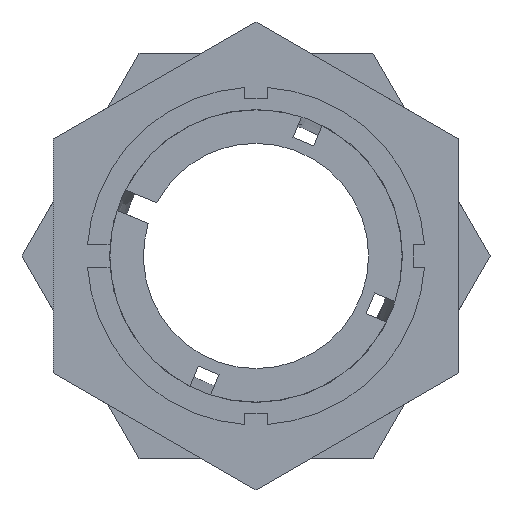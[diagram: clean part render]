
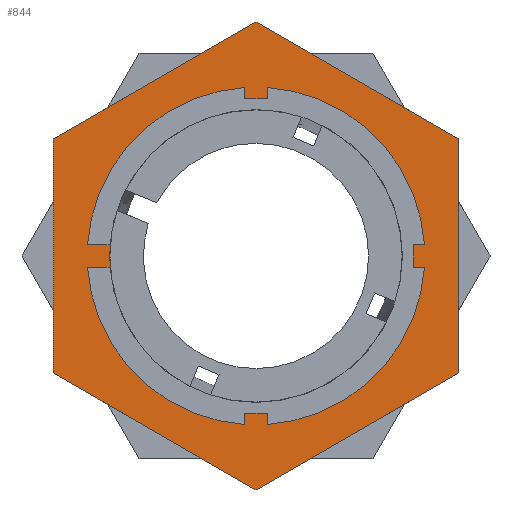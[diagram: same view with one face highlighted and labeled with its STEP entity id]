
A CAD part, left-side view. The second image highlights one B-rep face of the part: STEP entity #844.
In plain terms, the highlighted planar face has unit normal (-1, 0, 0).
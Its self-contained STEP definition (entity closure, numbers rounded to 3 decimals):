
#9 = DIRECTION ( 'NONE',  ( 0., -0.866, 0.5 ) ) ;
#10 = CARTESIAN_POINT ( 'NONE',  ( 17.52, -18., 10.392 ) ) ;
#11 = CARTESIAN_POINT ( 'NONE',  ( 17.52, 18., -10.392 ) ) ;
#13 = CARTESIAN_POINT ( 'NONE',  ( 17.52, 0., 0. ) ) ;
#27 = DIRECTION ( 'NONE',  ( -1., 0., 0. ) ) ;
#32 = CARTESIAN_POINT ( 'NONE',  ( 17.52, 0., 20.785 ) ) ;
#52 = DIRECTION ( 'NONE',  ( 0., 0.866, -0.5 ) ) ;
#64 = DIRECTION ( 'NONE',  ( -1., 0., 0. ) ) ;
#72 = CARTESIAN_POINT ( 'NONE',  ( 17.52, 18., 10.392 ) ) ;
#82 = DIRECTION ( 'NONE',  ( 0., 0.866, 0.5 ) ) ;
#92 = DIRECTION ( 'NONE',  ( 0., 0., 1. ) ) ;
#110 = CARTESIAN_POINT ( 'NONE',  ( 17.52, 0., 0. ) ) ;
#114 = DIRECTION ( 'NONE',  ( 0., 0., 1. ) ) ;
#115 = DIRECTION ( 'NONE',  ( 0., 0., -1. ) ) ;
#116 = DIRECTION ( 'NONE',  ( 0., 0., 1. ) ) ;
#118 = CARTESIAN_POINT ( 'NONE',  ( 17.52, -18., -10.392 ) ) ;
#123 = DIRECTION ( 'NONE',  ( 0., -0.866, -0.5 ) ) ;
#124 = CARTESIAN_POINT ( 'NONE',  ( 17.52, 0., -20.785 ) ) ;
#231 = AXIS2_PLACEMENT_3D ( 'NONE', #13, #27, #92 ) ;
#232 = AXIS2_PLACEMENT_3D ( 'NONE', #110, #64, #114 ) ;
#289 = EDGE_CURVE ( 'NONE', #2061, #1996, #1147, .T. ) ;
#299 = EDGE_CURVE ( 'NONE', #2076, #1999, #1118, .T. ) ;
#304 = EDGE_CURVE ( 'NONE', #2016, #2061, #2246, .T. ) ;
#305 = EDGE_CURVE ( 'NONE', #2101, #2042, #2244, .T. ) ;
#306 = EDGE_CURVE ( 'NONE', #1996, #2101, #2242, .T. ) ;
#307 = EDGE_CURVE ( 'NONE', #1999, #2076, #2240, .T. ) ;
#308 = EDGE_CURVE ( 'NONE', #2113, #2016, #1122, .T. ) ;
#309 = EDGE_CURVE ( 'NONE', #2042, #2113, #2239, .T. ) ;
#446 = CARTESIAN_POINT ( 'NONE',  ( 17.52, 0., 20.785 ) ) ;
#460 = CARTESIAN_POINT ( 'NONE',  ( 17.52, -18., -10.392 ) ) ;
#554 = FACE_BOUND ( 'NONE', #1188, .T. ) ;
#556 = FACE_OUTER_BOUND ( 'NONE', #2305, .T. ) ;
#844 = ADVANCED_FACE ( 'NONE', ( #554, #556 ), #1268, .F. ) ;
#863 = CARTESIAN_POINT ( 'NONE',  ( 17.52, 0., -13.001 ) ) ;
#878 = CARTESIAN_POINT ( 'NONE',  ( 17.52, 18., -10.392 ) ) ;
#897 = CARTESIAN_POINT ( 'NONE',  ( 17.52, -18., 10.392 ) ) ;
#923 = CARTESIAN_POINT ( 'NONE',  ( 17.52, 18., 10.392 ) ) ;
#944 = CARTESIAN_POINT ( 'NONE',  ( 17.52, 0., 13.001 ) ) ;
#948 = CARTESIAN_POINT ( 'NONE',  ( 17.52, 0., -20.785 ) ) ;
#965 = AXIS2_PLACEMENT_3D ( 'NONE', #1269, #1264, #1263 ) ;
#1012 = ORIENTED_EDGE ( 'NONE', *, *, #309, .T. ) ;
#1013 = ORIENTED_EDGE ( 'NONE', *, *, #305, .T. ) ;
#1014 = ORIENTED_EDGE ( 'NONE', *, *, #306, .T. ) ;
#1015 = ORIENTED_EDGE ( 'NONE', *, *, #289, .T. ) ;
#1016 = ORIENTED_EDGE ( 'NONE', *, *, #304, .T. ) ;
#1017 = ORIENTED_EDGE ( 'NONE', *, *, #308, .T. ) ;
#1018 = ORIENTED_EDGE ( 'NONE', *, *, #299, .F. ) ;
#1019 = ORIENTED_EDGE ( 'NONE', *, *, #307, .F. ) ;
#1118 = CIRCLE ( 'NONE', #232, 13.001 ) ;
#1121 = VECTOR ( 'NONE', #52, 1000. ) ;
#1122 = LINE ( 'NONE', #72, #1121 ) ;
#1146 = VECTOR ( 'NONE', #123, 1000. ) ;
#1147 = LINE ( 'NONE', #124, #1146 ) ;
#1188 = EDGE_LOOP ( 'NONE', ( #1019, #1018 ) ) ;
#1263 = DIRECTION ( 'NONE',  ( 0., 0., -1. ) ) ;
#1264 = DIRECTION ( 'NONE',  ( 1., 0., 0. ) ) ;
#1268 = PLANE ( 'NONE',  #965 ) ;
#1269 = CARTESIAN_POINT ( 'NONE',  ( 17.52, 50., 0. ) ) ;
#1996 = VERTEX_POINT ( 'NONE', #948 ) ;
#1999 = VERTEX_POINT ( 'NONE', #944 ) ;
#2016 = VERTEX_POINT ( 'NONE', #923 ) ;
#2042 = VERTEX_POINT ( 'NONE', #897 ) ;
#2061 = VERTEX_POINT ( 'NONE', #878 ) ;
#2076 = VERTEX_POINT ( 'NONE', #863 ) ;
#2101 = VERTEX_POINT ( 'NONE', #460 ) ;
#2113 = VERTEX_POINT ( 'NONE', #446 ) ;
#2238 = VECTOR ( 'NONE', #82, 1000. ) ;
#2239 = LINE ( 'NONE', #32, #2238 ) ;
#2240 = CIRCLE ( 'NONE', #231, 13.001 ) ;
#2241 = VECTOR ( 'NONE', #9, 1000. ) ;
#2242 = LINE ( 'NONE', #118, #2241 ) ;
#2243 = VECTOR ( 'NONE', #116, 1000. ) ;
#2244 = LINE ( 'NONE', #10, #2243 ) ;
#2245 = VECTOR ( 'NONE', #115, 1000. ) ;
#2246 = LINE ( 'NONE', #11, #2245 ) ;
#2305 = EDGE_LOOP ( 'NONE', ( #1017, #1016, #1015, #1014, #1013, #1012 ) ) ;
